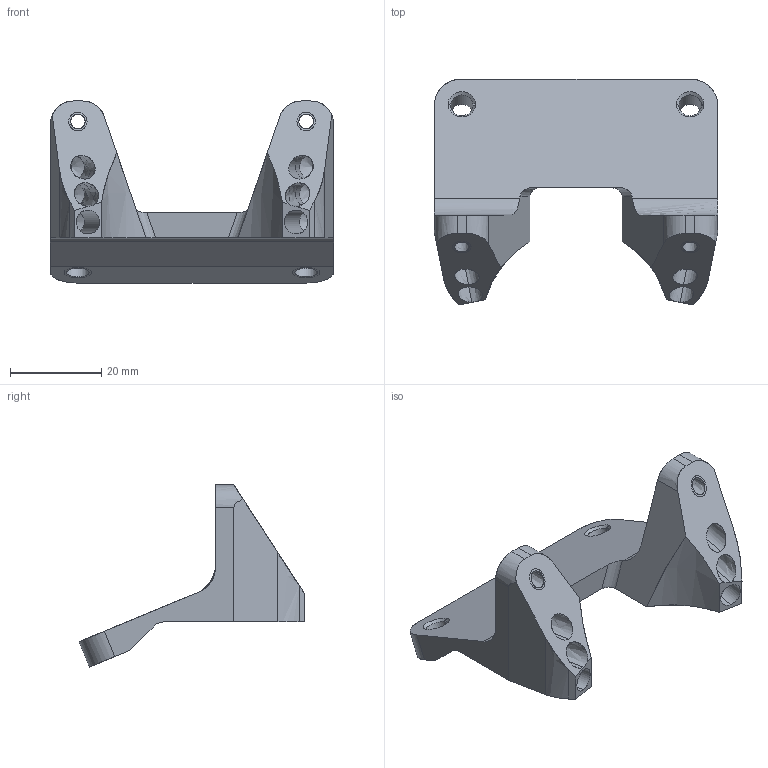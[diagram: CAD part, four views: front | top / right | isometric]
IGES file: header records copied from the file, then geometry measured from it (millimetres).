
Global section: file name: 0393-18-80; native system: VariCAD 2020-1.02; preprocessor: 5.3; author: LVVS3874K00E; organization: Elphe, Inc.; date: 20260812.144652; units: millimetre
Bounding box: 62 x 49.5 x 39.88 mm (x, y, z)
Surface area: 9639.5 mm2 (no closed solid volume)
Topology: 0 solids, 0 shells, 85 faces, 450 edges, 438 vertices
Faces by surface type: revolution 61, bspline 24
